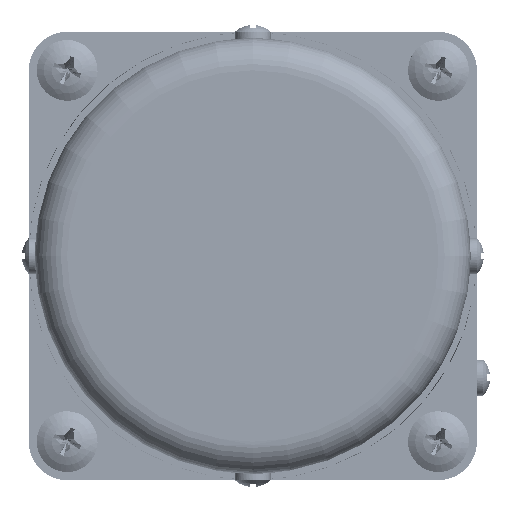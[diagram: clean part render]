
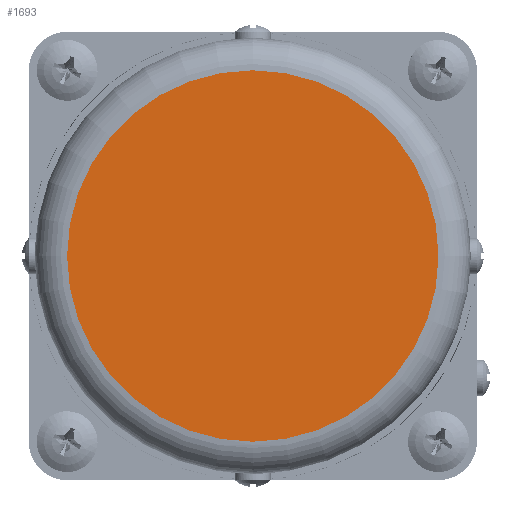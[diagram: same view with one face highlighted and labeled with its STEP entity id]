
A CAD part, left-side view. The second image highlights one B-rep face of the part: STEP entity #1693.
In plain terms, the highlighted planar face has unit normal (-1, 0, 0).
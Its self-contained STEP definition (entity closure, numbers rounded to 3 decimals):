
#911=PLANE('',#6259);
#1693=ADVANCED_FACE('',(#2094),#911,.T.);
#2094=FACE_OUTER_BOUND('',#2411,.T.);
#2411=EDGE_LOOP('',(#3178));
#3178=ORIENTED_EDGE('',*,*,#5146,.T.);
#4524=VERTEX_POINT('',#9329);
#5146=EDGE_CURVE('',#4524,#4524,#5846,.T.);
#5846=CIRCLE('',#6258,29.);
#6258=AXIS2_PLACEMENT_3D('',#9328,#6954,#6955);
#6259=AXIS2_PLACEMENT_3D('',#9330,#6956,#6957);
#6954=DIRECTION('',(-1.,0.,0.));
#6955=DIRECTION('',(0.,0.,-1.));
#6956=DIRECTION('',(-1.,0.,0.));
#6957=DIRECTION('',(0.,0.,-1.));
#9328=CARTESIAN_POINT('',(-136.,0.,0.));
#9329=CARTESIAN_POINT('',(-136.,0.,-29.));
#9330=CARTESIAN_POINT('',(-136.,0.,0.));
